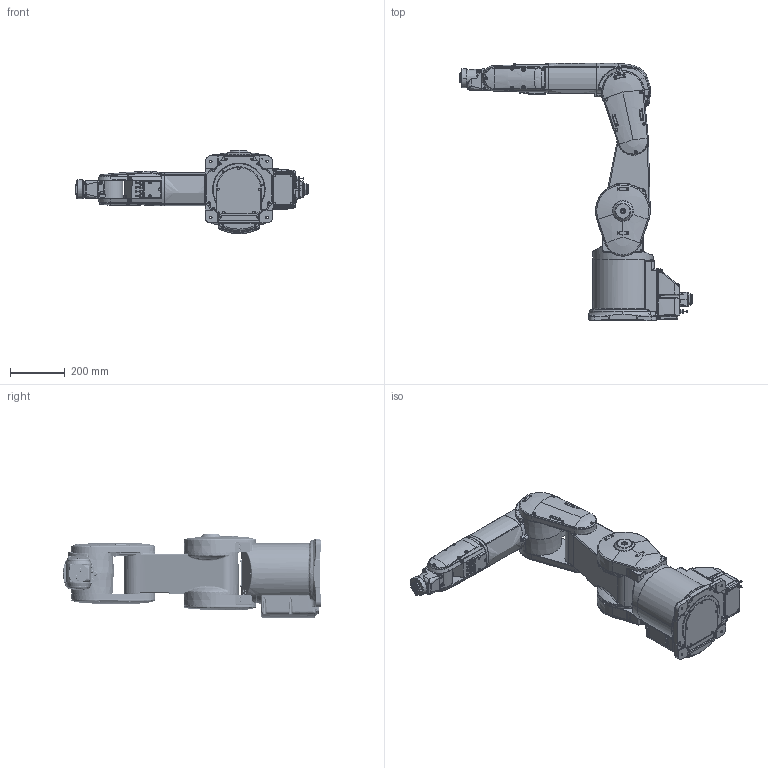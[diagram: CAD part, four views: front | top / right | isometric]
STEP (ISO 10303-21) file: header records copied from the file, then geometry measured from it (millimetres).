
FILE_DESCRIPTION((''),'2;1');
FILE_NAME('RV-7FRL-SH_ASM','2016-12-14T',('1362'),(''),'PRO/ENGINEER BY PARAMETRIC TECHNOLOGY CORPORATION, 2014310','PRO/ENGINEER BY PARAMETRIC TECHNOLOGY CORPORATION, 2014310','');
FILE_SCHEMA(('CONFIG_CONTROL_DESIGN'));
Length unit declared in the file: millimetre
Products named in the file (9): RV-7FL-SH_SKELTON; RV-7FR_BASE; RV-7F_SHOULDER_01; RV-7FL_NO1ARM_02; RV-7F_ELBOW_03; RV-7FL_NO2ARM_04; RV-4F-SH_WRIST_05; RV-4F-SH_HAND_FLANGE_06; RV-7FRL-SH_ASM
Assembly tree (8 placements, depth 2):
  RV-7FRL-SH_ASM
    RV-7FL-SH_SKELTON
    RV-7FR_BASE
    RV-7F_SHOULDER_01
    RV-7FL_NO1ARM_02
    RV-7F_ELBOW_03
    RV-7FL_NO2ARM_04
    RV-4F-SH_WRIST_05
    RV-4F-SH_HAND_FLANGE_06
Bounding box: 847.5 x 940 x 305 mm (x, y, z)
Volume: 38742605.7 mm3; surface area: 1631260.5 mm2
Topology: 7 solids, 9 shells, 4322 faces, 10844 edges, 6732 vertices
Faces by surface type: cylinder 1482, plane 1070, bspline 941, cone 391, torus 355, sphere 50, extrusion 26, revolution 7
Entity records: 298617 total; most frequent: CARTESIAN_POINT 203990, ORIENTED_EDGE 21494, DIRECTION 17211, EDGE_CURVE 10747, AXIS2_PLACEMENT_3D 6771, VERTEX_POINT 6731, EDGE_LOOP 4632, FACE_OUTER_BOUND 4322
